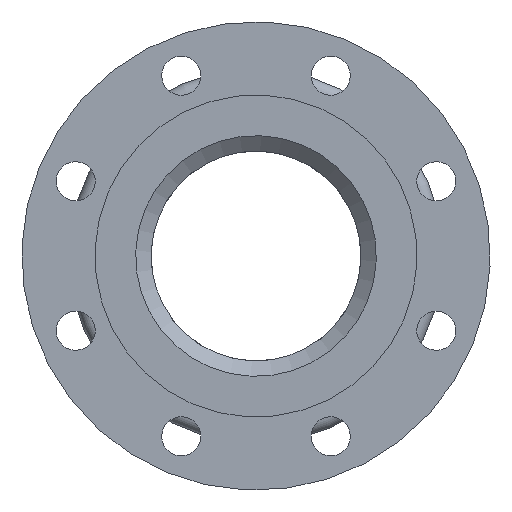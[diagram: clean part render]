
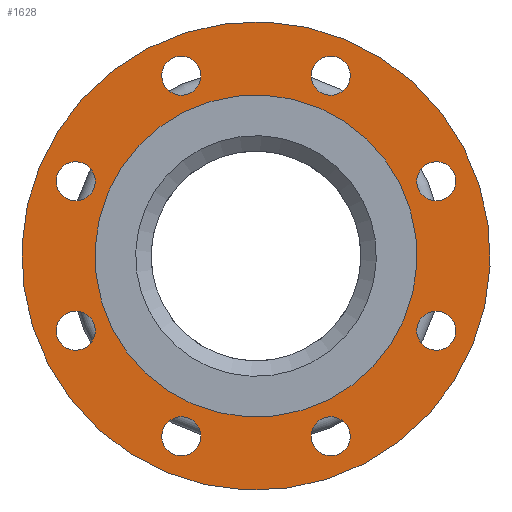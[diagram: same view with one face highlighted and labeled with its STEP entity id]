
A CAD part, front view. The second image highlights one B-rep face of the part: STEP entity #1628.
In plain terms, the highlighted planar face has unit normal (0, -1, 0).
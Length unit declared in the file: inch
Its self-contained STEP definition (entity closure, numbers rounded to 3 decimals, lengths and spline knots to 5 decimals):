
#102=FACE_BOUND('',#407,.T.);
#103=FACE_BOUND('',#408,.T.);
#104=FACE_BOUND('',#409,.T.);
#105=FACE_BOUND('',#410,.T.);
#106=FACE_BOUND('',#411,.T.);
#107=FACE_BOUND('',#412,.T.);
#108=FACE_BOUND('',#413,.T.);
#109=FACE_BOUND('',#414,.T.);
#110=FACE_BOUND('',#415,.T.);
#267=FACE_OUTER_BOUND('',#406,.T.);
#406=EDGE_LOOP('',(#1151));
#407=EDGE_LOOP('',(#1152));
#408=EDGE_LOOP('',(#1153));
#409=EDGE_LOOP('',(#1154));
#410=EDGE_LOOP('',(#1155));
#411=EDGE_LOOP('',(#1156));
#412=EDGE_LOOP('',(#1157));
#413=EDGE_LOOP('',(#1158));
#414=EDGE_LOOP('',(#1159));
#415=EDGE_LOOP('',(#1160));
#695=CIRCLE('',#1763,3.09375);
#700=CIRCLE('',#1772,4.5);
#701=CIRCLE('',#1773,0.375);
#702=CIRCLE('',#1774,0.375);
#703=CIRCLE('',#1775,0.375);
#704=CIRCLE('',#1776,0.375);
#705=CIRCLE('',#1777,0.375);
#706=CIRCLE('',#1778,0.375);
#707=CIRCLE('',#1779,0.375);
#708=CIRCLE('',#1780,0.375);
#844=VERTEX_POINT('',#2615);
#849=VERTEX_POINT('',#2629);
#850=VERTEX_POINT('',#2631);
#851=VERTEX_POINT('',#2633);
#852=VERTEX_POINT('',#2635);
#853=VERTEX_POINT('',#2637);
#854=VERTEX_POINT('',#2639);
#855=VERTEX_POINT('',#2641);
#856=VERTEX_POINT('',#2643);
#857=VERTEX_POINT('',#2645);
#993=EDGE_CURVE('',#844,#844,#695,.T.);
#998=EDGE_CURVE('',#849,#849,#700,.T.);
#999=EDGE_CURVE('',#850,#850,#701,.T.);
#1000=EDGE_CURVE('',#851,#851,#702,.T.);
#1001=EDGE_CURVE('',#852,#852,#703,.T.);
#1002=EDGE_CURVE('',#853,#853,#704,.T.);
#1003=EDGE_CURVE('',#854,#854,#705,.T.);
#1004=EDGE_CURVE('',#855,#855,#706,.T.);
#1005=EDGE_CURVE('',#856,#856,#707,.T.);
#1006=EDGE_CURVE('',#857,#857,#708,.T.);
#1151=ORIENTED_EDGE('',*,*,#998,.T.);
#1152=ORIENTED_EDGE('',*,*,#993,.T.);
#1153=ORIENTED_EDGE('',*,*,#999,.T.);
#1154=ORIENTED_EDGE('',*,*,#1000,.T.);
#1155=ORIENTED_EDGE('',*,*,#1001,.T.);
#1156=ORIENTED_EDGE('',*,*,#1002,.T.);
#1157=ORIENTED_EDGE('',*,*,#1003,.T.);
#1158=ORIENTED_EDGE('',*,*,#1004,.T.);
#1159=ORIENTED_EDGE('',*,*,#1005,.T.);
#1160=ORIENTED_EDGE('',*,*,#1006,.T.);
#1439=PLANE('',#1771);
#1628=ADVANCED_FACE('',(#267,#102,#103,#104,#105,#106,#107,#108,#109,#110),
#1439,.T.);
#1763=AXIS2_PLACEMENT_3D('',#2616,#2053,#2054);
#1771=AXIS2_PLACEMENT_3D('',#2628,#2069,#2070);
#1772=AXIS2_PLACEMENT_3D('',#2630,#2071,#2072);
#1773=AXIS2_PLACEMENT_3D('',#2632,#2073,#2074);
#1774=AXIS2_PLACEMENT_3D('',#2634,#2075,#2076);
#1775=AXIS2_PLACEMENT_3D('',#2636,#2077,#2078);
#1776=AXIS2_PLACEMENT_3D('',#2638,#2079,#2080);
#1777=AXIS2_PLACEMENT_3D('',#2640,#2081,#2082);
#1778=AXIS2_PLACEMENT_3D('',#2642,#2083,#2084);
#1779=AXIS2_PLACEMENT_3D('',#2644,#2085,#2086);
#1780=AXIS2_PLACEMENT_3D('',#2646,#2087,#2088);
#2053=DIRECTION('center_axis',(0.,1.,0.));
#2054=DIRECTION('ref_axis',(0.687,0.,0.727));
#2069=DIRECTION('center_axis',(0.,-1.,0.));
#2070=DIRECTION('ref_axis',(-0.924,0.,0.383));
#2071=DIRECTION('center_axis',(0.,-1.,0.));
#2072=DIRECTION('ref_axis',(-0.924,0.,0.383));
#2073=DIRECTION('center_axis',(0.,1.,0.));
#2074=DIRECTION('ref_axis',(-0.924,0.,0.383));
#2075=DIRECTION('center_axis',(0.,1.,0.));
#2076=DIRECTION('ref_axis',(-0.383,0.,0.924));
#2077=DIRECTION('center_axis',(0.,1.,0.));
#2078=DIRECTION('ref_axis',(0.383,0.,0.924));
#2079=DIRECTION('center_axis',(0.,1.,0.));
#2080=DIRECTION('ref_axis',(0.924,0.,0.383));
#2081=DIRECTION('center_axis',(0.,1.,0.));
#2082=DIRECTION('ref_axis',(0.924,0.,-0.383));
#2083=DIRECTION('center_axis',(0.,1.,0.));
#2084=DIRECTION('ref_axis',(0.383,0.,-0.924));
#2085=DIRECTION('center_axis',(0.,1.,0.));
#2086=DIRECTION('ref_axis',(-0.383,0.,-0.924));
#2087=DIRECTION('center_axis',(0.,1.,0.));
#2088=DIRECTION('ref_axis',(-0.924,0.,-0.383));
#2615=CARTESIAN_POINT('',(-2.12522,0.5,-2.24827));
#2616=CARTESIAN_POINT('Origin',(0.,0.5,
0.));
#2628=CARTESIAN_POINT('Origin',(0.,0.5,0.));
#2629=CARTESIAN_POINT('',(4.15746,0.5,-1.72208));
#2630=CARTESIAN_POINT('Origin',(0.,0.5,0.));
#2631=CARTESIAN_POINT('',(-1.78152,0.5,-3.32104));
#2632=CARTESIAN_POINT('Origin',(-1.43506,0.5,-3.46455));
#2633=CARTESIAN_POINT('',(-3.60805,0.5,-1.08861));
#2634=CARTESIAN_POINT('Origin',(-3.46455,0.5,-1.43506));
#2635=CARTESIAN_POINT('',(-3.32104,0.5,1.78152));
#2636=CARTESIAN_POINT('Origin',(-3.46455,0.5,1.43506));
#2637=CARTESIAN_POINT('',(-1.08861,0.5,3.60805));
#2638=CARTESIAN_POINT('Origin',(-1.43506,0.5,3.46455));
#2639=CARTESIAN_POINT('',(1.78152,0.5,3.32104));
#2640=CARTESIAN_POINT('Origin',(1.43506,0.5,3.46455));
#2641=CARTESIAN_POINT('',(3.60805,0.5,1.08861));
#2642=CARTESIAN_POINT('Origin',(3.46455,0.5,1.43506));
#2643=CARTESIAN_POINT('',(3.32104,0.5,-1.78152));
#2644=CARTESIAN_POINT('Origin',(3.46455,0.5,-1.43506));
#2645=CARTESIAN_POINT('',(1.08861,0.5,-3.60805));
#2646=CARTESIAN_POINT('Origin',(1.43506,0.5,-3.46455));
